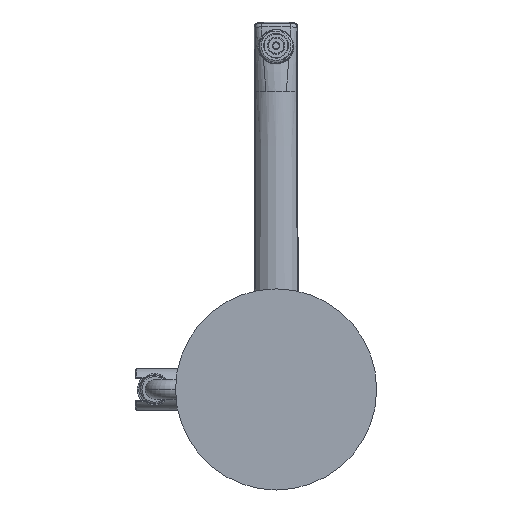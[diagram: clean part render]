
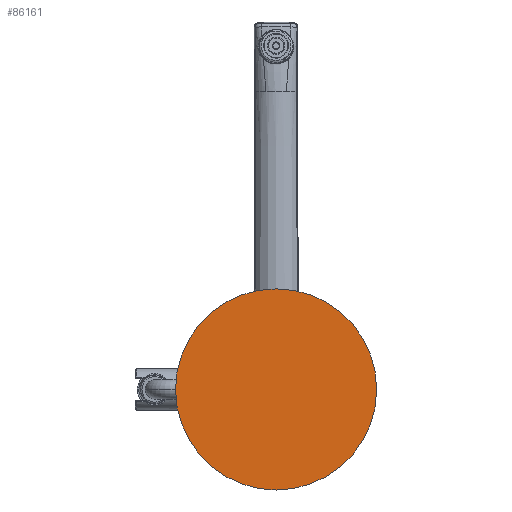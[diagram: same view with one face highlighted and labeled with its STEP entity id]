
A CAD part, front view. The second image highlights one B-rep face of the part: STEP entity #86161.
In plain terms, the highlighted planar face has unit normal (0, -1, 0).
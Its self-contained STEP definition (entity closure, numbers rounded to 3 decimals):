
#26176=CARTESIAN_POINT('',(0.,-889.,0.));
#26177=DIRECTION('',(0.,1.,0.));
#26178=DIRECTION('',(-1.,0.,0.));
#26179=AXIS2_PLACEMENT_3D('',#26176,#26177,#26178);
#26181=CARTESIAN_POINT('',(0.,-889.,0.));
#26182=DIRECTION('',(0.,-1.,0.));
#26183=DIRECTION('',(-1.,0.,0.));
#26184=AXIS2_PLACEMENT_3D('',#26181,#26182,#26183);
#72519=CARTESIAN_POINT('',(-72.5,-889.,0.));
#72520=CARTESIAN_POINT('',(72.5,-889.,0.));
#72521=VERTEX_POINT('',#72519);
#72522=VERTEX_POINT('',#72520);
#86152=CARTESIAN_POINT('',(0.,-889.,0.));
#86153=DIRECTION('',(0.,-1.,0.));
#86154=DIRECTION('',(-1.,0.,0.));
#86155=AXIS2_PLACEMENT_3D('',#86152,#86153,#86154);
#86156=PLANE('',#86155);
#86157=ORIENTED_EDGE('',*,*,#86134,.T.);
#86158=ORIENTED_EDGE('',*,*,#86119,.F.);
#86159=EDGE_LOOP('',(#86157,#86158));
#86160=FACE_OUTER_BOUND('',#86159,.F.);
#86161=ADVANCED_FACE('',(#86160),#86156,.T.);
#26180=CIRCLE('',#26179,72.5);
#26185=CIRCLE('',#26184,72.5);
#86119=EDGE_CURVE('',#72521,#72522,#26185,.T.);
#86134=EDGE_CURVE('',#72521,#72522,#26180,.T.);
